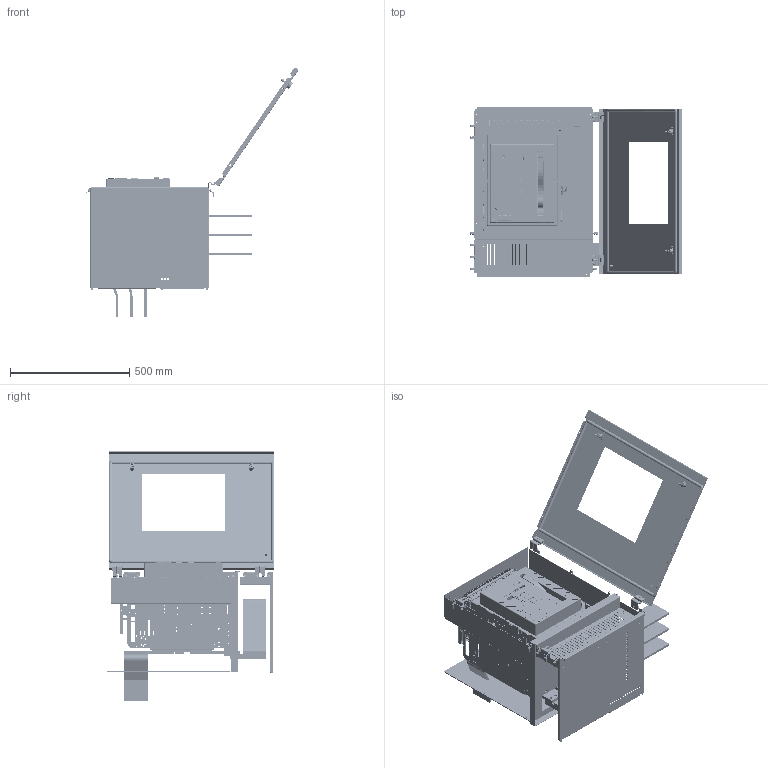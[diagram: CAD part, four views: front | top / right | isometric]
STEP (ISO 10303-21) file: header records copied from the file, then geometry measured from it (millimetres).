
FILE_DESCRIPTION(('CAx-IF Rec.Pracs.---Model Styling and Organization---1.2---2011-12-15','CAx-IF Rec.Pracs.---Geometric and Assembly Validation Properties---4.1---2014-06-16','CAx-IF Rec.Pracs.---PMI Polyline Presentation---2.0---2013-05-24'),'2;1');
FILE_NAME('R5M214IB5H61521S (one-side).stp','2021-05-05T12:52:38+03:00',(''),(''),'STEP Interface 4.4 by CT CoreTechnologie','3D_Evolution4.4 by CT CoreTechnologie','');
FILE_SCHEMA(('AUTOMOTIVE_DESIGN { 1 0 10303 214 1 1 1 1 }'));
Length unit declared in the file: millimetre
Products named in the file (32): R5M214IB5H61521S(îäíîñòîðîííèé); M6 x 16-DIN 7991 ISR_thread; RB.0116.00.00.3_-00; AC00C485; HNDO_-01; RB.1227.00.00.0_-00; RB.0687.00.00.1_-00; RB.1233.00.00.0_-01; RB.1226.00.00.0_-00; HNDT1W_-00; HNDT2W_-00; HNDT3W_-00; MS737-1-1(1); MS737-1-1 Z_ ªàëâ; MS737-1-1 stop_fixed; RB.1595.00.00.1_-00 (HND W); MS737-1-1(2); HGN06-16 W 3P_-01 (¢¥àå­¨¥ ª®­â ªâë); HNDDS1W_-00; HNDDS2W_-00; RB.1454.00.00.0_-00; HNDDS3W_-00; RB.1453.00.00.0_-00; RB.1227.00.00.0_-01; RB.1452.00.00.0_-00; RB.1454.00.00.0_-01; RB.1455.00.00.0 ÑÁ_-00 (HGS W); RB.1455.00.01.0_-00; PF 7x14 MCC2.0_0700x0600; AC00C266; AC00C061_AC00C061; Ì6õ12-A5100231_straight
Assembly tree (64 placements, depth 3):
  R5M214IB5H61521S(îäíîñòîðîííèé)
    M6 x 16-DIN 7991 ISR_thread  x12
    RB.0116.00.00.3_-00  x2
    AC00C485  x12
    HNDO_-01  x6
    RB.1227.00.00.0_-00
    RB.0687.00.00.1_-00  x2
    RB.1233.00.00.0_-01
    RB.1226.00.00.0_-00
    HNDT1W_-00
    HNDT2W_-00
    HNDT3W_-00
    MS737-1-1(1)
      MS737-1-1 Z_ ªàëâ
      MS737-1-1 stop_fixed
    RB.1595.00.00.1_-00 (HND W)
    MS737-1-1(2)
      MS737-1-1 Z_ ªàëâ
      MS737-1-1 stop_fixed
    HGN06-16 W 3P_-01 (¢¥àå­¨¥ ª®­â ªâë)
    HNDDS1W_-00
    HNDDS2W_-00
    RB.1454.00.00.0_-00
    HNDDS3W_-00
    RB.1453.00.00.0_-00
    RB.1227.00.00.0_-01
    RB.1452.00.00.0_-00  x2
    RB.1454.00.00.0_-01
    RB.1455.00.00.0 ÑÁ_-00 (HGS W)
      RB.1455.00.01.0_-00
      PF 7x14 MCC2.0_0700x0600
      AC00C266  x2
      AC00C061_AC00C061
      Ì6õ12-A5100231_straight
Bounding box: 893.53 x 717 x 1047.4 mm (x, y, z)
Surface area: 6722537.5 mm2 (no closed solid volume)
Topology: 0 solids, 115 shells, 13512 faces, 39844 edges, 26263 vertices
Faces by surface type: plane 10268, cylinder 2662, bspline 582
Entity records: 410395 total; most frequent: CARTESIAN_POINT 82853, ORIENTED_EDGE 70688, DIRECTION 62984, EDGE_CURVE 35782, VECTOR 31026, LINE 31026, VERTEX_POINT 23997, AXIS2_PLACEMENT_3D 15979
